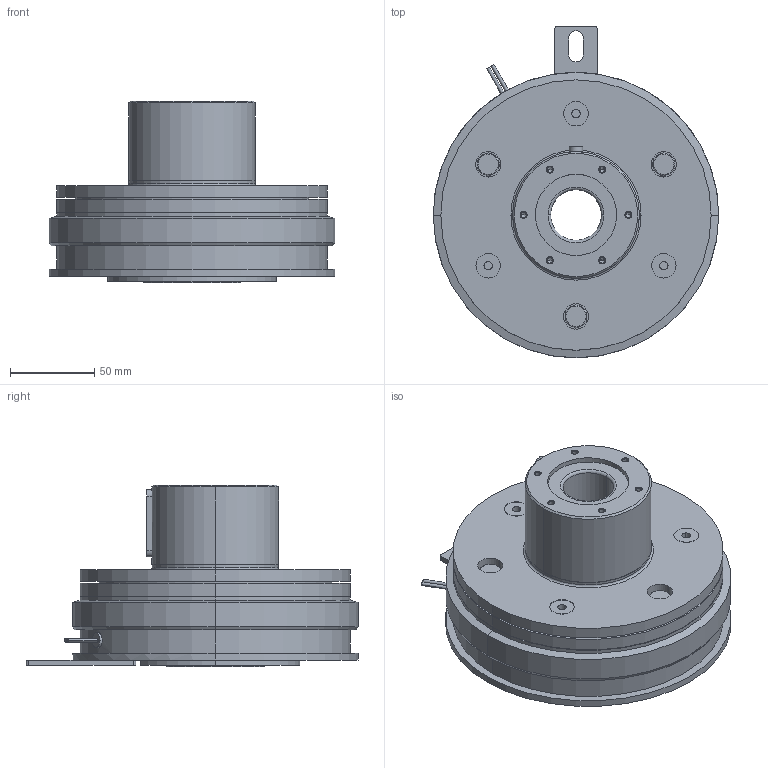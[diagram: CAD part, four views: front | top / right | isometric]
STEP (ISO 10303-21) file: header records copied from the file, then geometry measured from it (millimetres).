
FILE_DESCRIPTION (( 'STEP AP214' ), '1' );
FILE_NAME ('CS-16-35G R30DIN A30DIN.STEP', '2018-02-14T06:19:27', ( 'MIKI' ), ( '' ), 'SwSTEP 2.0', 'SolidWorks 2012', '' );
FILE_SCHEMA (( 'AUTOMOTIVE_DESIGN' ));
Length unit declared in the file: millimetre
Products named in the file (1): CS-16-35G R30DIN A30DIN
Bounding box: 169 x 196.5 x 107.5 mm (x, y, z)
Volume: 1230910.2 mm3; surface area: 160263.9 mm2
Topology: 1 solids, 6 shells, 349 faces, 767 edges, 464 vertices
Faces by surface type: cylinder 148, plane 131, cone 60, torus 10
Entity records: 13634 total; most frequent: CARTESIAN_POINT 1926, DIRECTION 1793, ORIENTED_EDGE 1494, EDGE_CURVE 747, AXIS2_PLACEMENT_3D 741, VERTEX_POINT 464, EDGE_LOOP 413, CIRCLE 391
